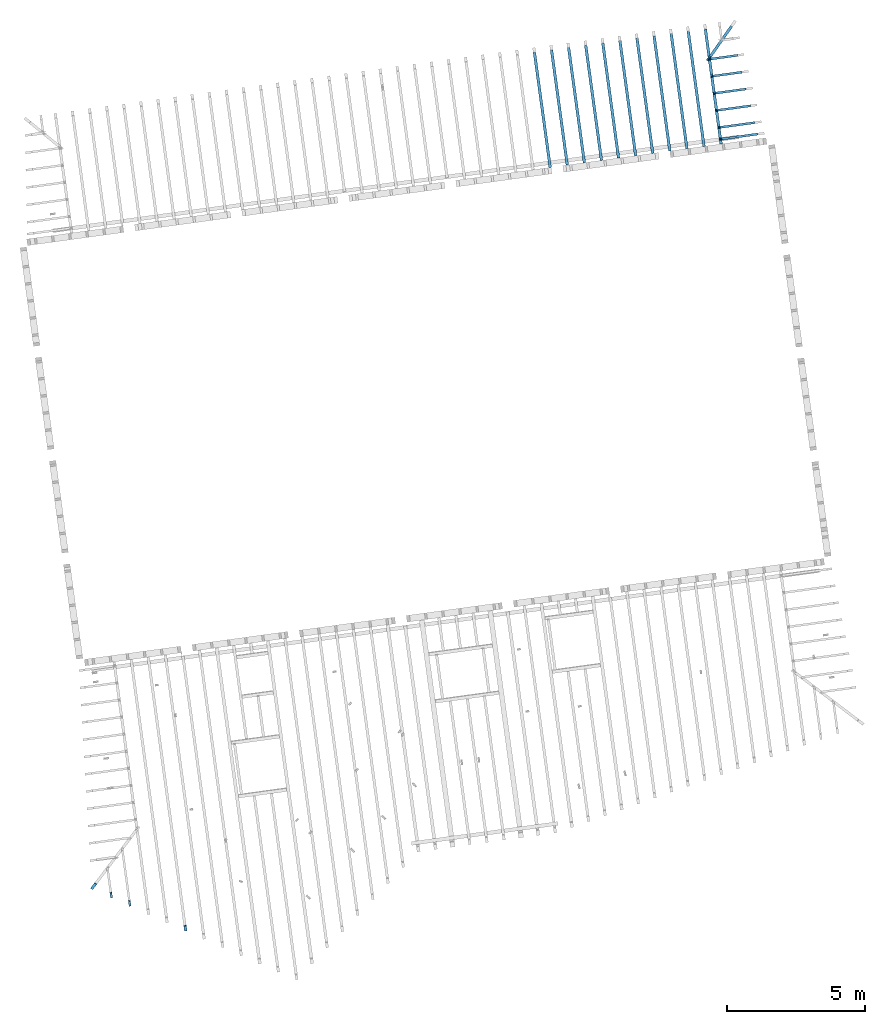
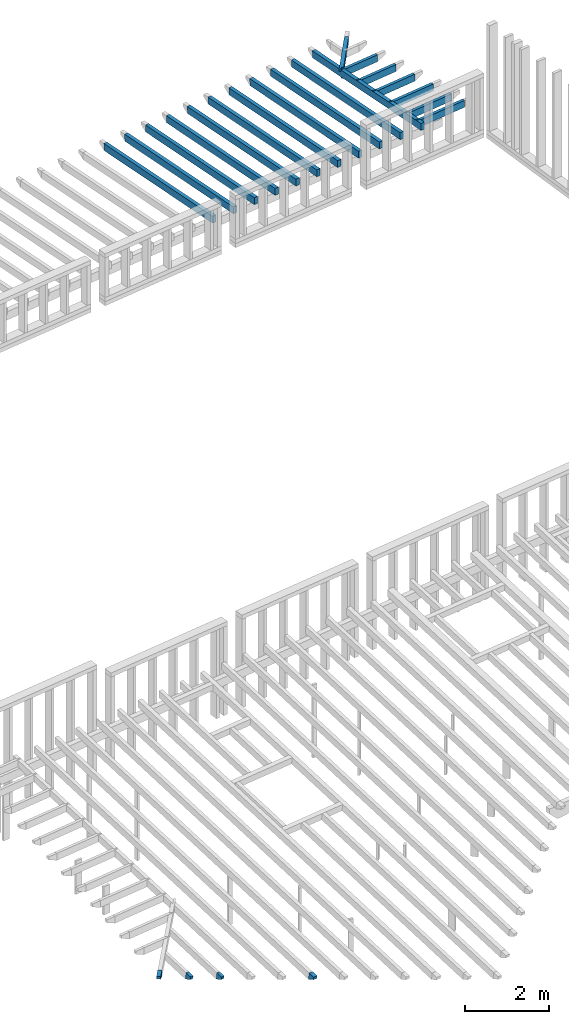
# One storey, part 11 of 16: 22 building element parts, 22 elements without a shape of their own.
"""IFC2X3 building model written with IfcOpenShell, lengths in metres."""

from ifc_helpers import new_model, entity, si_unit, converted_unit, derived_unit, money_unit, direction, frame, origin_with_axes, place, context, subcontext, project, spatial, faceted_brep, material, type_object, element, aggregate, save


model = new_model("IFC2X3")

# Units and contexts
model_context = context("Model", 3, precision=1e-05, world=origin_with_axes(), true_north=direction((0.0, 1.0)))
body_context = subcontext(model_context, "Body", "Model", "MODEL_VIEW")
ifc_project = project(units=[si_unit("LENGTHUNIT", "METRE"), si_unit("AREAUNIT", "SQUARE_METRE"), si_unit("VOLUMEUNIT", "CUBIC_METRE"), converted_unit("PLANEANGLEUNIT", "DEGREE", entity("IfcPlaneAngleMeasure", 0.0174532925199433), si_unit("PLANEANGLEUNIT", "RADIAN"), dimensions=[0, 0, 0, 0, 0, 0, 0]), money_unit("EUR"), converted_unit("TIMEUNIT", "Year", entity("IfcTimeMeasure", 31557600.0), si_unit("TIMEUNIT", "SECOND"), dimensions=[0, 0, 1, 0, 0, 0, 0]), si_unit("MASSUNIT", "GRAM", prefix="KILO"), si_unit("THERMODYNAMICTEMPERATUREUNIT", "DEGREE_CELSIUS"), si_unit("LUMINOUSINTENSITYUNIT", "LUMEN"), si_unit("ENERGYUNIT", "JOULE", prefix="MEGA"), derived_unit("THERMALCONDUCTANCEUNIT", [(si_unit("POWERUNIT", "WATT"), 1), (si_unit("LENGTHUNIT", "METRE"), -1), (si_unit("THERMODYNAMICTEMPERATUREUNIT", "KELVIN"), -1)]), derived_unit("SPECIFICHEATCAPACITYUNIT", [(si_unit("ENERGYUNIT", "JOULE"), 1), (si_unit("MASSUNIT", "GRAM", prefix="KILO"), -1), (si_unit("THERMODYNAMICTEMPERATUREUNIT", "KELVIN"), -1)]), derived_unit("MASSDENSITYUNIT", [(si_unit("MASSUNIT", "GRAM", prefix="KILO"), 1), (si_unit("VOLUMEUNIT", "CUBIC_METRE"), -1)])], contexts=[model_context])

# Site, building, storey
site_placement = place(None, origin_with_axes())
site = spatial("IfcSite", under=ifc_project, at=site_placement, Name="Gelände", CompositionType="ELEMENT")
building_placement = place(site_placement, origin_with_axes())
building = spatial("IfcBuilding", under=site, at=building_placement, Name="Gebäude", CompositionType="ELEMENT")
storey_placement = place(building_placement, frame((0.0, 0.0, 3.0), z_axis=(0.0, 0.0, 1.0), x_axis=(1.0, 0.0, 0.0)))
storey = spatial("IfcBuildingStorey", under=building, at=storey_placement, Name="ZG", CompositionType="ELEMENT", Elevation=3.0)

# Beam, building element part
beam_type_1 = type_object("IfcBeamType", Name="Verschiedene Strukturen - 2 Segmente - 100 x 200 x 4381 (4214+167)", PredefinedType="NOTDEFINED")
beam_1_placement = place(storey_placement, frame((103.6175888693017, -133.0522754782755, 1.028226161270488), z_axis=(0.0, 0.0, 1.0), x_axis=(0.9907484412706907, 0.1357111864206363, 0.0)))
beam_1 = element("IfcBeam", 1, at=beam_1_placement, inside=storey, type_object=beam_type_1, Name="Unterzug-034")
ifc_material = material(Name="Holz, Bauholz-hart")
building_element_part_1_placement = place(beam_1_placement, origin_with_axes())
building_element_part_1 = element("IfcBuildingElementPart", 2, at=building_element_part_1_placement, material=ifc_material, Name="Holz, Bauholz-hart", context=body_context, shape_type="Brep", body=[
    faceted_brep([(-0.04999999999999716, 0.0, -0.2002744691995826), (-0.04999999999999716, 4.197525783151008, -0.4202574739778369), (0.05000000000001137, 4.197525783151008, -0.4202574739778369), (0.05000000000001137, 0.0, -0.2002744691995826), (-0.04999999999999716, 0.0, 0.0), (-0.04999999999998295, 4.207992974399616, -0.2205315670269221), (0.05000000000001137, 4.207992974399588, -0.2205315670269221), (0.05000000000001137, 0.0, 0.0)], [[[0, 1, 2, 3]], [[4, 5, 1, 0]], [[2, 1, 5, 6]], [[3, 2, 6, 7]], [[4, 0, 3, 7]], [[7, 6, 5, 4]]]),
])
aggregate(beam_1, [building_element_part_1])

beam_2_placement = place(storey_placement, frame((104.2368066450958, -132.9674559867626, 1.028226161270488), z_axis=(0.0, 0.0, 1.0), x_axis=(0.9907484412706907, 0.1357111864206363, 0.0)))
beam_2 = element("IfcBeam", 3, at=beam_2_placement, inside=storey, type_object=beam_type_1, Name="Unterzug-034")
building_element_part_2_placement = place(beam_2_placement, origin_with_axes())
building_element_part_2 = element("IfcBuildingElementPart", 4, at=building_element_part_2_placement, material=ifc_material, Name="Holz, Bauholz-hart", context=body_context, shape_type="Brep", body=[
    faceted_brep([(-0.05000000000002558, 0.0, -0.2002744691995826), (-0.05000000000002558, 4.197525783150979, -0.4202574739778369), (0.04999999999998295, 4.197525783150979, -0.4202574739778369), (0.04999999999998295, 0.0, -0.2002744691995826), (-0.05000000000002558, 0.0, 0.0), (-0.05000000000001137, 4.207992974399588, -0.2205315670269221), (0.04999999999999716, 4.207992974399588, -0.2205315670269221), (0.04999999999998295, 0.0, 0.0)], [[[0, 1, 2, 3]], [[4, 5, 1, 0]], [[2, 1, 5, 6]], [[3, 2, 6, 7]], [[4, 0, 3, 7]], [[7, 6, 5, 4]]]),
])
aggregate(beam_2, [building_element_part_2])

beam_3_placement = place(storey_placement, frame((104.85602442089, -132.8826364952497, 1.028226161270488), z_axis=(0.0, 0.0, 1.0), x_axis=(0.9907484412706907, 0.1357111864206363, 0.0)))
beam_3 = element("IfcBeam", 5, at=beam_3_placement, inside=storey, type_object=beam_type_1, Name="Unterzug-034")
building_element_part_3_placement = place(beam_3_placement, origin_with_axes())
building_element_part_3 = element("IfcBuildingElementPart", 6, at=building_element_part_3_placement, material=ifc_material, Name="Holz, Bauholz-hart", context=body_context, shape_type="Brep", body=[
    faceted_brep([(-0.05000000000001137, 0.0, -0.2002744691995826), (-0.04999999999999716, 4.197525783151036, -0.4202574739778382), (0.05000000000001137, 4.197525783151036, -0.4202574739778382), (0.04999999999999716, 0.0, -0.2002744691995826), (-0.05000000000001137, 0.0, 0.0), (-0.04999999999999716, 4.207992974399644, -0.2205315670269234), (0.05000000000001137, 4.207992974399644, -0.2205315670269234), (0.04999999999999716, 0.0, 0.0)], [[[0, 1, 2, 3]], [[4, 5, 1, 0]], [[2, 1, 5, 6]], [[3, 2, 6, 7]], [[4, 0, 3, 7]], [[7, 6, 5, 4]]]),
])
aggregate(beam_3, [building_element_part_3])

beam_4_placement = place(storey_placement, frame((105.4752421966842, -132.7978170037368, 1.028226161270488), z_axis=(0.0, 0.0, 1.0), x_axis=(0.9907484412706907, 0.1357111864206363, 0.0)))
beam_4 = element("IfcBeam", 7, at=beam_4_placement, inside=storey, type_object=beam_type_1, Name="Unterzug-034")
building_element_part_4_placement = place(beam_4_placement, origin_with_axes())
building_element_part_4 = element("IfcBuildingElementPart", 8, at=building_element_part_4_placement, material=ifc_material, Name="Holz, Bauholz-hart", context=body_context, shape_type="Brep", body=[
    faceted_brep([(-0.04999999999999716, 0.0, -0.2002744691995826), (-0.05000000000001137, 4.197525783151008, -0.4202574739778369), (0.05000000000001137, 4.197525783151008, -0.4202574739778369), (0.04999999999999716, 0.0, -0.2002744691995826), (-0.04999999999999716, 0.0, 0.0), (-0.05000000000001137, 4.207992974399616, -0.2205315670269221), (0.05000000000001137, 4.207992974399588, -0.2205315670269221), (0.04999999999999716, 0.0, 0.0)], [[[0, 1, 2, 3]], [[4, 5, 1, 0]], [[2, 1, 5, 6]], [[3, 2, 6, 7]], [[4, 0, 3, 7]], [[7, 6, 5, 4]]]),
])
aggregate(beam_4, [building_element_part_4])

beam_5_placement = place(storey_placement, frame((106.0944599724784, -132.7129975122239, 1.028226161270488), z_axis=(0.0, 0.0, 1.0), x_axis=(0.9907484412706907, 0.1357111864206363, 0.0)))
beam_5 = element("IfcBeam", 9, at=beam_5_placement, inside=storey, type_object=beam_type_1, Name="Unterzug-034")
building_element_part_5_placement = place(beam_5_placement, origin_with_axes())
building_element_part_5 = element("IfcBuildingElementPart", 10, at=building_element_part_5_placement, material=ifc_material, Name="Holz, Bauholz-hart", context=body_context, shape_type="Brep", body=[
    faceted_brep([(-0.04999999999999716, 0.0, -0.2002744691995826), (-0.05000000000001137, 4.197525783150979, -0.4202574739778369), (0.04999999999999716, 4.197525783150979, -0.4202574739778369), (0.04999999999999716, 0.0, -0.2002744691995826), (-0.04999999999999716, 0.0, 0.0), (-0.04999999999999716, 4.207992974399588, -0.2205315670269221), (0.05000000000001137, 4.207992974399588, -0.2205315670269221), (0.04999999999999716, 0.0, 0.0)], [[[0, 1, 2, 3]], [[4, 5, 1, 0]], [[2, 1, 5, 6]], [[3, 2, 6, 7]], [[4, 0, 3, 7]], [[7, 6, 5, 4]]]),
])
aggregate(beam_5, [building_element_part_5])

beam_6_placement = place(storey_placement, frame((106.7136777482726, -132.628178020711, 1.028226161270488), z_axis=(0.0, 0.0, 1.0), x_axis=(0.9907484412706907, 0.1357111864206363, 0.0)))
beam_6 = element("IfcBeam", 11, at=beam_6_placement, inside=storey, type_object=beam_type_1, Name="Unterzug-034")
building_element_part_6_placement = place(beam_6_placement, origin_with_axes())
building_element_part_6 = element("IfcBuildingElementPart", 12, at=building_element_part_6_placement, material=ifc_material, Name="Holz, Bauholz-hart", context=body_context, shape_type="Brep", body=[
    faceted_brep([(-0.04999999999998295, 0.0, -0.2002744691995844), (-0.04999999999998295, 4.197525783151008, -0.4202574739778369), (0.05000000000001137, 4.197525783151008, -0.4202574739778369), (0.05000000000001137, 0.0, -0.2002744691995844), (-0.04999999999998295, 0.0, 0.0), (-0.04999999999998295, 4.207992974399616, -0.2205315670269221), (0.05000000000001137, 4.207992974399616, -0.2205315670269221), (0.05000000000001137, 0.0, 0.0)], [[[0, 1, 2, 3]], [[4, 5, 1, 0]], [[2, 1, 5, 6]], [[3, 2, 6, 7]], [[4, 0, 3, 7]], [[7, 6, 5, 4]]]),
])
aggregate(beam_6, [building_element_part_6])

beam_7_placement = place(storey_placement, frame((107.3328955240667, -132.5433585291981, 1.028226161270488), z_axis=(0.0, 0.0, 1.0), x_axis=(0.9907484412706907, 0.1357111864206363, 0.0)))
beam_7 = element("IfcBeam", 13, at=beam_7_placement, inside=storey, type_object=beam_type_1, Name="Unterzug-034")
building_element_part_7_placement = place(beam_7_placement, origin_with_axes())
building_element_part_7 = element("IfcBuildingElementPart", 14, at=building_element_part_7_placement, material=ifc_material, Name="Holz, Bauholz-hart", context=body_context, shape_type="Brep", body=[
    faceted_brep([(-0.04999999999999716, 0.0, -0.2002744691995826), (-0.04999999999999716, 4.197525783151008, -0.4202574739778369), (0.05000000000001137, 4.197525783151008, -0.4202574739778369), (0.05000000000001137, 0.0, -0.2002744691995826), (-0.04999999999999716, 0.0, 0.0), (-0.04999999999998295, 4.207992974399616, -0.2205315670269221), (0.05000000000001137, 4.207992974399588, -0.2205315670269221), (0.05000000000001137, 0.0, 0.0)], [[[0, 1, 2, 3]], [[4, 5, 1, 0]], [[2, 1, 5, 6]], [[3, 2, 6, 7]], [[4, 0, 3, 7]], [[7, 6, 5, 4]]]),
])
aggregate(beam_7, [building_element_part_7])

beam_8_placement = place(storey_placement, frame((107.9521132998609, -132.4585390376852, 1.028226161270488), z_axis=(0.0, 0.0, 1.0), x_axis=(0.9907484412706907, 0.1357111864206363, 0.0)))
beam_8 = element("IfcBeam", 15, at=beam_8_placement, inside=storey, type_object=beam_type_1, Name="Unterzug-034")
building_element_part_8_placement = place(beam_8_placement, origin_with_axes())
building_element_part_8 = element("IfcBuildingElementPart", 16, at=building_element_part_8_placement, material=ifc_material, Name="Holz, Bauholz-hart", context=body_context, shape_type="Brep", body=[
    faceted_brep([(-0.04999999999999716, 0.0, -0.2002744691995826), (-0.04999999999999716, 4.197525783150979, -0.4202574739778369), (0.05000000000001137, 4.197525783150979, -0.4202574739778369), (0.05000000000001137, 0.0, -0.2002744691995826), (-0.04999999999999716, 0.0, 0.0), (-0.04999999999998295, 4.207992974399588, -0.2205315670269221), (0.05000000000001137, 4.207992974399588, -0.2205315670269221), (0.05000000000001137, 0.0, 0.0)], [[[0, 1, 2, 3]], [[4, 5, 1, 0]], [[2, 1, 5, 6]], [[3, 2, 6, 7]], [[4, 0, 3, 7]], [[7, 6, 5, 4]]]),
])
aggregate(beam_8, [building_element_part_8])

beam_9_placement = place(storey_placement, frame((108.5713310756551, -132.3737195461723, 1.028226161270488), z_axis=(0.0, 0.0, 1.0), x_axis=(0.9907484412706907, 0.1357111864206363, 0.0)))
beam_9 = element("IfcBeam", 17, at=beam_9_placement, inside=storey, type_object=beam_type_1, Name="Unterzug-034")
building_element_part_9_placement = place(beam_9_placement, origin_with_axes())
building_element_part_9 = element("IfcBuildingElementPart", 18, at=building_element_part_9_placement, material=ifc_material, Name="Holz, Bauholz-hart", context=body_context, shape_type="Brep", body=[
    faceted_brep([(-0.05000000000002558, 0.0, -0.2002744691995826), (-0.05000000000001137, 4.197525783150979, -0.4202574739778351), (0.04999999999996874, 4.197525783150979, -0.4202574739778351), (0.04999999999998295, 0.0, -0.2002744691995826), (-0.05000000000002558, 0.0, 0.0), (-0.05000000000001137, 4.207992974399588, -0.2205315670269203), (0.04999999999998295, 4.207992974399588, -0.2205315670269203), (0.04999999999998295, 0.0, 0.0)], [[[0, 1, 2, 3]], [[4, 5, 1, 0]], [[2, 1, 5, 6]], [[3, 2, 6, 7]], [[4, 0, 3, 7]], [[7, 6, 5, 4]]]),
])
aggregate(beam_9, [building_element_part_9])

beam_10_placement = place(storey_placement, frame((109.1905488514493, -132.2889000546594, 1.028226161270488), z_axis=(0.0, 0.0, 1.0), x_axis=(0.9907484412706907, 0.1357111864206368, 0.0)))
beam_10 = element("IfcBeam", 19, at=beam_10_placement, inside=storey, type_object=beam_type_1, Name="Unterzug-034")
building_element_part_10_placement = place(beam_10_placement, origin_with_axes())
building_element_part_10 = element("IfcBuildingElementPart", 20, at=building_element_part_10_placement, material=ifc_material, Name="Holz, Bauholz-hart", context=body_context, shape_type="Brep", body=[
    faceted_brep([(-0.05000000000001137, 0.0, -0.2002744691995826), (-0.05000000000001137, 4.197525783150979, -0.4202574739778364), (0.04999999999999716, 4.197525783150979, -0.4202574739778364), (0.04999999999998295, 0.0, -0.2002744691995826), (-0.05000000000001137, 0.0, 0.0), (-0.05000000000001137, 4.207992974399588, -0.2205315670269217), (0.04999999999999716, 4.207992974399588, -0.2205315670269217), (0.04999999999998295, 0.0, 0.0)], [[[0, 1, 2, 3]], [[4, 5, 1, 0]], [[2, 1, 5, 6]], [[3, 2, 6, 7]], [[4, 0, 3, 7]], [[7, 6, 5, 4]]]),
])
aggregate(beam_10, [building_element_part_10])

beam_type_2 = type_object("IfcBeamType", Name="Verschiedene Strukturen - 2 Segmente - 100 x 200 x 10107 (183+9924)", PredefinedType="NOTDEFINED")
beam_11_placement = place(storey_placement, frame((90.41320547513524, -160.7165916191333, 0.4186167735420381), z_axis=(0.0, 0.0, 1.0), x_axis=(0.9907484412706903, 0.1357111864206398, 0.0)))
beam_11 = element("IfcBeam", 21, at=beam_11_placement, inside=storey, type_object=beam_type_2, Name="Unterzug-034")
building_element_part_11_placement = place(beam_11_placement, origin_with_axes())
building_element_part_11 = element("IfcBuildingElementPart", 22, at=building_element_part_11_placement, material=ifc_material, Name="Holz, Bauholz-hart", context=body_context, shape_type="Brep", body=[
    faceted_brep([(0.04999999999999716, 0.208561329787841, -0.1726541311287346), (0.04999999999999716, 0.01113384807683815, -0.07922144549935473), (-0.05000000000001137, 0.01113384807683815, -0.07922144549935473), (-0.05000000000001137, 0.2085613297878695, -0.1726541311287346), (0.04999999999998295, 0.1807267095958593, 0.02539948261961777), (0.04999999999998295, 0.0, 0.0), (-0.05000000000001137, 0.0, 0.0), (-0.04999999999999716, 0.1807267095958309, 0.02539948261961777)], [[[0, 1, 2, 3]], [[4, 5, 1, 0]], [[5, 6, 2, 1]], [[3, 2, 6, 7]], [[4, 0, 3, 7]], [[7, 6, 5, 4]]]),
])
aggregate(beam_11, [building_element_part_11])

beam_type_3 = type_object("IfcBeamType", Name="Verschiedene Strukturen - 2 Segmente - 80 x 200 x 1131 (183+949)", PredefinedType="NOTDEFINED")
beam_12_placement = place(storey_placement, frame((87.72628365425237, -159.5224042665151, 0.6361437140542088), z_axis=(0.0, 0.0, 1.0), x_axis=(0.990748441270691, 0.1357111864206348, 0.0)))
beam_12 = element("IfcBeam", 23, at=beam_12_placement, inside=storey, type_object=beam_type_3, Name="Unterzug-034")
building_element_part_12_placement = place(beam_12_placement, origin_with_axes())
building_element_part_12 = element("IfcBuildingElementPart", 24, at=building_element_part_12_placement, material=ifc_material, Name="Holz, Bauholz-hart", context=body_context, shape_type="Brep", body=[
    faceted_brep([(0.03999999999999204, 0.2085613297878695, -0.1726541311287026), (0.04000000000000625, 0.01113384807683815, -0.07922144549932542), (-0.03999999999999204, 0.01113384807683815, -0.07922144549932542), (-0.04000000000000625, 0.2085613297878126, -0.1726541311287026), (0.04000000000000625, 0.1807267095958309, 0.02539948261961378), (0.04000000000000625, 0.0, 0.0), (-0.03999999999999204, 0.0, 0.0), (-0.03999999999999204, 0.1807267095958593, 0.02539948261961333)], [[[0, 1, 2, 3]], [[4, 5, 1, 0]], [[5, 6, 2, 1]], [[3, 2, 6, 7]], [[4, 0, 3, 7]], [[7, 6, 5, 4]]]),
])
aggregate(beam_12, [building_element_part_12])

beam_type_4 = type_object("IfcBeamType", Name="Verschiedene Strukturen - 2 Segmente - 100 x 200 x 2865 (248+2617)", PredefinedType="NOTDEFINED")
beam_13_placement = place(storey_placement, frame((87.00040731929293, -159.1989129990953, 0.6950314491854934), z_axis=(0.0, 0.0, 1.0), x_axis=(0.796527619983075, -0.6046021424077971, 0.0)))
beam_13 = element("IfcBeam", 25, at=beam_13_placement, inside=storey, type_object=beam_type_4, Name="Unterzug-034")
building_element_part_13_placement = place(beam_13_placement, origin_with_axes())
building_element_part_13 = element("IfcBuildingElementPart", 26, at=building_element_part_13_placement, material=ifc_material, Name="Holz, Bauholz-hart", context=body_context, shape_type="Brep", body=[
    faceted_brep([(0.04999999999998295, 0.2586016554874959, -0.1752860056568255), (0.04999999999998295, 0.0, -0.07658848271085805), (-0.04999999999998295, 0.0, -0.07658848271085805), (-0.04999999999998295, 0.2586016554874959, -0.1752860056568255), (0.05000000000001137, 0.23882360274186, 0.02373366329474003), (0.04999999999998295, 0.0, 0.0), (-0.04999999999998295, 0.0, 0.0), (-0.04999999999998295, 0.2388236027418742, 0.02373366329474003)], [[[0, 1, 2, 3]], [[4, 5, 1, 0]], [[5, 6, 2, 1]], [[3, 2, 6, 7]], [[4, 0, 3, 7]], [[7, 6, 5, 4]]]),
])
aggregate(beam_13, [building_element_part_13])

beam_type_5 = type_object("IfcBeamType", Name="Verschiedene Strukturen - 2 Segmente - 80 x 200 x 2153 (183+1971)", PredefinedType="NOTDEFINED")
beam_14_placement = place(storey_placement, frame((88.39801465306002, -159.8209513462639, 0.5817619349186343), z_axis=(0.0, 0.0, 1.0), x_axis=(0.9907484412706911, 0.1357111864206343, 0.0)))
beam_14 = element("IfcBeam", 27, at=beam_14_placement, inside=storey, type_object=beam_type_5, Name="Unterzug-034")
building_element_part_14_placement = place(beam_14_placement, origin_with_axes())
building_element_part_14 = element("IfcBuildingElementPart", 28, at=building_element_part_14_placement, material=ifc_material, Name="Holz, Bauholz-hart", context=body_context, shape_type="Brep", body=[
    faceted_brep([(0.03999999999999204, 0.208561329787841, -0.1726541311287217), (0.03999999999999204, 0.01113384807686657, -0.07922144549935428), (-0.03999999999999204, 0.01113384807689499, -0.07922144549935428), (-0.04000000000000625, 0.208561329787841, -0.1726541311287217), (0.03999999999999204, 0.1807267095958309, 0.02539948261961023), (0.03999999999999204, 0.0, 0.0), (-0.04000000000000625, 0.0, 0.0), (-0.04000000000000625, 0.1807267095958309, 0.02539948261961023)], [[[0, 1, 2, 3]], [[4, 5, 1, 0]], [[5, 6, 2, 1]], [[3, 2, 6, 7]], [[4, 0, 3, 7]], [[7, 6, 5, 4]]]),
])
aggregate(beam_14, [building_element_part_14])

beam_type_6 = type_object("IfcBeamType", Name="Verschiedene Strukturen - 2 Segmente - 80 x 200 x 1530 (1290+240)", PredefinedType="NOTDEFINED")
beam_15_placement = place(storey_placement, frame((109.6434425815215, -130.9898454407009, 0.963996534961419), z_axis=(0.0, 0.0, 1.0), x_axis=(0.1357111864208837, -0.9907484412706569, 0.0)))
beam_15 = element("IfcBeam", 29, at=beam_15_placement, inside=storey, type_object=beam_type_6, Name="Unterzug-034")
building_element_part_15_placement = place(beam_15_placement, origin_with_axes())
building_element_part_15 = element("IfcBuildingElementPart", 30, at=building_element_part_15_placement, material=ifc_material, Name="Holz, Bauholz-hart", context=body_context, shape_type="Brep", body=[
    faceted_brep([(-0.04000000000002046, -0.05000000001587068, 0.0), (-6.905306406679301e-07, -0.05000000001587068, 0.0), (-6.905307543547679e-07, 0.04999999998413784, 0.0), (0.03999999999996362, 0.04999999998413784, 0.0), (0.03999999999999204, 1.24027454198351, 0.0), (-0.03999999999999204, 1.240274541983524, 0.0), (-0.04000000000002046, -0.05000000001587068, -0.002096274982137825), (-0.04000000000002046, 0.04999999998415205, -0.002096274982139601), (0.005236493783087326, 0.04999999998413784, -0.2000000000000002), (0.03999999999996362, 0.04999999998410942, -0.1981781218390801), (-0.04000000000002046, 0.04999999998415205, -0.2000000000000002), (0.03999999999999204, -0.05000000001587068, -0.1981781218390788), (0.03999999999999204, -0.05000000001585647, -0.2000000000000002), (0.03999999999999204, 1.24027454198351, -0.2000000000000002), (-0.03999999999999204, 1.240274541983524, -0.2000000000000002), (0.005236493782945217, -0.05000000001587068, -0.2000000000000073)], [[[0, 1, 2, 3, 4, 5]], [[0, 6, 1]], [[7, 2, 1, 6]], [[8, 9, 3, 2, 7, 10]], [[3, 9, 11, 12, 13, 4]], [[13, 14, 5, 4]], [[10, 7, 6, 0, 5, 14]], [[15, 11, 9, 8]], [[15, 8, 10, 14, 13, 12]], [[12, 11, 15]]]),
])
aggregate(beam_15, [building_element_part_15])

beam_type_7 = type_object("IfcBeamType", Name="Verschiedene Strukturen - 2 Segmente - 80 x 200 x 1458 (1218+240)", PredefinedType="NOTDEFINED")
beam_16_placement = place(storey_placement, frame((109.5586230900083, -130.3706276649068, 0.9312416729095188), z_axis=(0.0, 0.0, 1.0), x_axis=(0.1357111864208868, -0.9907484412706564, 0.0)))
beam_16 = element("IfcBeam", 31, at=beam_16_placement, inside=storey, type_object=beam_type_7, Name="Unterzug-034")
building_element_part_16_placement = place(beam_16_placement, origin_with_axes())
building_element_part_16 = element("IfcBuildingElementPart", 32, at=building_element_part_16_placement, material=ifc_material, Name="Holz, Bauholz-hart", context=body_context, shape_type="Brep", body=[
    faceted_brep([(-0.04000000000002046, -0.05000000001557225, 0.0), (-6.905306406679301e-07, -0.05000000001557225, 0.0), (-6.905307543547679e-07, 0.04999999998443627, 0.0), (0.03999999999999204, 0.04999999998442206, 0.0), (0.04000000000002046, 1.167600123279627, 0.0), (-0.04000000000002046, 1.167600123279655, 0.0), (-0.04000000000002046, -0.05000000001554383, -0.002096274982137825), (-0.04000000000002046, 0.04999999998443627, -0.002096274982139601), (0.005236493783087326, 0.04999999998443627, -0.2000000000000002), (0.03999999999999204, 0.04999999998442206, -0.1981781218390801), (-0.04000000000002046, 0.04999999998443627, -0.2000000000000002), (0.04000000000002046, -0.05000000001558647, -0.1981781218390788), (0.04000000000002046, -0.05000000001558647, -0.2000000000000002), (0.04000000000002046, 1.167600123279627, -0.2000000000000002), (-0.04000000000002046, 1.167600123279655, -0.2000000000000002), (0.005236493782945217, -0.05000000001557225, -0.2000000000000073)], [[[0, 1, 2, 3, 4, 5]], [[0, 6, 1]], [[7, 2, 1, 6]], [[8, 9, 3, 2, 7, 10]], [[3, 9, 11, 12, 13, 4]], [[13, 14, 5, 4]], [[10, 7, 6, 0, 5, 14]], [[15, 11, 9, 8]], [[15, 8, 10, 14, 13, 12]], [[12, 11, 15]]]),
])
aggregate(beam_16, [building_element_part_16])

beam_type_8 = type_object("IfcBeamType", Name="Verschiedene Strukturen - 2 Segmente - 80 x 200 x 1385 (1145+240)", PredefinedType="NOTDEFINED")
beam_17_placement = place(storey_placement, frame((109.4738035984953, -129.7514098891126, 0.8984868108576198), z_axis=(0.0, 0.0, 1.0), x_axis=(0.1357111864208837, -0.990748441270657, 0.0)))
beam_17 = element("IfcBeam", 33, at=beam_17_placement, inside=storey, type_object=beam_type_8, Name="Unterzug-034")
building_element_part_17_placement = place(beam_17_placement, origin_with_axes())
building_element_part_17 = element("IfcBuildingElementPart", 34, at=building_element_part_17_placement, material=ifc_material, Name="Holz, Bauholz-hart", context=body_context, shape_type="Brep", body=[
    faceted_brep([(-0.04000000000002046, -0.05000000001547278, 0.0), (-6.905305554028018e-07, -0.05000000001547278, 0.0), (-6.905307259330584e-07, 0.04999999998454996, 0.0), (0.03999999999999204, 0.04999999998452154, 0.0), (0.03999999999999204, 1.094925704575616, 0.0), (-0.03999999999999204, 1.094925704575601, 0.0), (-0.04000000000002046, -0.05000000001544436, -0.002096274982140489), (-0.03999999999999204, 0.04999999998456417, -0.002096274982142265), (0.005236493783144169, 0.04999999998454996, -0.2000000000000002), (0.03999999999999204, 0.04999999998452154, -0.1981781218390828), (-0.03999999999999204, 0.04999999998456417, -0.2000000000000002), (0.03999999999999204, -0.05000000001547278, -0.1981781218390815), (0.03999999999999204, -0.05000000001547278, -0.2000000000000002), (0.03999999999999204, 1.094925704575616, -0.2000000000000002), (-0.03999999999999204, 1.094925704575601, -0.2000000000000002), (0.005236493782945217, -0.05000000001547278, -0.2000000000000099)], [[[0, 1, 2, 3, 4, 5]], [[0, 6, 1]], [[7, 2, 1, 6]], [[8, 9, 3, 2, 7, 10]], [[3, 9, 11, 12, 13, 4]], [[13, 14, 5, 4]], [[10, 7, 6, 0, 5, 14]], [[15, 11, 9, 8]], [[15, 8, 10, 14, 13, 12]], [[12, 11, 15]]]),
])
aggregate(beam_17, [building_element_part_17])

beam_type_9 = type_object("IfcBeamType", Name="Verschiedene Strukturen - 2 Segmente - 80 x 200 x 1312 (1072+240)", PredefinedType="NOTDEFINED")
beam_18_placement = place(storey_placement, frame((109.3889841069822, -129.1321921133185, 0.865731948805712), z_axis=(0.0, 0.0, 1.0), x_axis=(0.1357111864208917, -0.9907484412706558, 0.0)))
beam_18 = element("IfcBeam", 35, at=beam_18_placement, inside=storey, type_object=beam_type_9, Name="Unterzug-034")
building_element_part_18_placement = place(beam_18_placement, origin_with_axes())
building_element_part_18 = element("IfcBuildingElementPart", 36, at=building_element_part_18_placement, material=ifc_material, Name="Holz, Bauholz-hart", context=body_context, shape_type="Brep", body=[
    faceted_brep([(-0.04000000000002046, -0.05000000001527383, 0.0), (-6.905307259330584e-07, -0.0500000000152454, 0.0), (-6.905308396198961e-07, 0.04999999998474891, 0.0), (0.03999999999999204, 0.0499999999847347, 0.0), (0.03999999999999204, 1.022251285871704, 0.0), (-0.04000000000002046, 1.022251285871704, 0.0), (-0.04000000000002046, -0.05000000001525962, -0.00209627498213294), (-0.04000000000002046, 0.04999999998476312, -0.002096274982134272), (0.005236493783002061, 0.04999999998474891, -0.2000000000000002), (0.03999999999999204, 0.0499999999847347, -0.1981781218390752), (-0.04000000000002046, 0.04999999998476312, -0.2000000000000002), (0.03999999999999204, -0.05000000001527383, -0.1981781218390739), (0.03999999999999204, -0.05000000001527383, -0.2000000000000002), (0.03999999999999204, 1.022251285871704, -0.2000000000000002), (-0.04000000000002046, 1.022251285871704, -0.2000000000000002), (0.005236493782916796, -0.05000000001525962, -0.2000000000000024)], [[[0, 1, 2, 3, 4, 5]], [[0, 6, 1]], [[7, 2, 1, 6]], [[8, 9, 3, 2, 7, 10]], [[3, 9, 11, 12, 13, 4]], [[13, 14, 5, 4]], [[10, 7, 6, 0, 5, 14]], [[15, 11, 9, 8]], [[15, 8, 10, 14, 13, 12]], [[12, 11, 15]]]),
])
aggregate(beam_18, [building_element_part_18])

beam_type_10 = type_object("IfcBeamType", Name="Verschiedene Strukturen - 2 Segmente - 100 x 200 x 1775 (1532+243)", PredefinedType="NOTDEFINED")
beam_19_placement = place(storey_placement, frame((109.3828589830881, -129.087476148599, 0.8633666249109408), z_axis=(0.0, 0.0, 1.0), x_axis=(0.818915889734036, -0.5739135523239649, 0.0)))
beam_19 = element("IfcBeam", 37, at=beam_19_placement, inside=storey, type_object=beam_type_10, Name="Unterzug-034")
building_element_part_19_placement = place(beam_19_placement, origin_with_axes())
building_element_part_19 = element("IfcBuildingElementPart", 38, at=building_element_part_19_placement, material=ifc_material, Name="Holz, Bauholz-hart", context=body_context, shape_type="Brep", body=[
    faceted_brep([(-3.826552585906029e-07, 0.0735579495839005, -0.002827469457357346), (0.04016211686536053, 0.03022180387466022, -0.001161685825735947), (0.05000000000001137, 0.03933922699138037, -0.001512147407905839), (0.05000000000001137, 1.403264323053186, -0.05393960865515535), (-0.04999999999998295, 1.403264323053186, -0.05393960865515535), (-0.04999999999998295, -0.1275085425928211, 0.00490125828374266), (-3.202648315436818e-07, -0.1275085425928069, 0.00490125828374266), (-3.202647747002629e-07, -0.07355719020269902, 0.002827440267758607), (-3.253633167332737e-07, -0.06153501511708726, 0.002365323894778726), (-0.01114207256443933, -0.06153501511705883, 0.002365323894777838), (-0.03318319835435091, -0.03775219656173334, 0.001451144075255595), (-3.484914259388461e-07, -0.006999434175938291, 0.0002690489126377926), (0.05000000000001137, 0.01960652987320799, -0.197634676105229), (0.04016211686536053, 0.03022180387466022, -0.197634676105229), (-0.04999999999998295, 0.1275085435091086, -0.00668242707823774), (-0.04999999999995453, 0.1275085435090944, -0.2050489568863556), (0.003558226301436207, 0.06971813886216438, -0.2028275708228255), (0.05000000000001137, 0.01960652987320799, -0.199246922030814), (0.05000000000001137, 0.03933922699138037, -0.197634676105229), (0.05000000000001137, -0.02233682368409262, -0.1976346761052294), (0.05000000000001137, -0.06537746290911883, -0.197634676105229), (0.05000000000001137, 1.395582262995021, -0.2537920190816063), (-0.04999999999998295, 1.395582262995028, -0.2537920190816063), (-0.04999999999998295, -0.01960652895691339, -0.001027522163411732), (-0.04999999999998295, -0.1275085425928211, 0.003120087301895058), (-0.03318319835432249, -0.03775219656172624, 0.0002690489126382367), (-0.005994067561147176, -0.06708981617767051, 0.00236532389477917), (0.003558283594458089, -0.06537746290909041, -0.1976346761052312)], [[[0, 1, 2, 3, 4, 5, 6, 7, 8, 9, 10, 11]], [[12, 13, 1, 0, 14, 15, 16, 17]], [[13, 18, 2, 1]], [[2, 18, 12, 17, 19, 20, 21, 3]], [[3, 21, 22, 4]], [[22, 15, 14, 23, 24, 5, 4]], [[24, 6, 5]], [[23, 25, 26, 7, 6, 24]], [[7, 26, 8]], [[26, 9, 8]], [[9, 26, 25, 10]], [[10, 25, 11]], [[0, 11, 25, 23, 14]], [[13, 12, 18]], [[21, 20, 27, 16, 15, 22]], [[16, 27, 19, 17]], [[27, 20, 19]]]),
    faceted_brep([(0.05000000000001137, -0.1275085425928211, -0.1952464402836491), (0.05000000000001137, -0.0697338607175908, -0.1974672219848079), (0.05000000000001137, -0.06973386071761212, -0.1958127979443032), (0.04999999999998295, -0.1275085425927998, -0.1935920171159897), (0.003558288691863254, -0.07739700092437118, -0.1971726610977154), (0.021196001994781, -0.09642844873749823, -0.1964411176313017), (0.003558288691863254, -0.1275085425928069, -0.1952464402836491), (0.021196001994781, -0.09642844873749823, -0.1958127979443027)], [[[0, 1, 2, 3]], [[4, 5, 1, 0, 6]], [[5, 7, 2, 1]], [[3, 2, 7]], [[3, 6, 0]], [[5, 4, 7]], [[3, 7, 4, 6]]]),
])
aggregate(beam_19, [building_element_part_19])

beam_20_placement = place(storey_placement, frame((109.8097666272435, -132.2040805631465, 1.028226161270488), z_axis=(0.0, 0.0, 1.0), x_axis=(0.9907484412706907, 0.1357111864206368, 0.0)))
beam_20 = element("IfcBeam", 39, at=beam_20_placement, inside=storey, type_object=beam_type_1, Name="Unterzug-034")
building_element_part_20_placement = place(beam_20_placement, origin_with_axes())
building_element_part_20 = element("IfcBuildingElementPart", 40, at=building_element_part_20_placement, material=ifc_material, Name="Holz, Bauholz-hart", context=body_context, shape_type="Brep", body=[
    faceted_brep([(-0.04999999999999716, 0.0, -0.2002744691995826), (-0.04999999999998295, 4.197525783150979, -0.4202574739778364), (0.05000000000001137, 4.197525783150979, -0.4202574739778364), (0.04999999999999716, 0.0, -0.2002744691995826), (-0.04999999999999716, 0.0, 0.0), (-0.04999999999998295, 4.207992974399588, -0.2205315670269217), (0.05000000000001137, 4.207992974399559, -0.2205315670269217), (0.04999999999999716, 0.0, 0.0)], [[[0, 1, 2, 3]], [[4, 5, 1, 0]], [[2, 1, 5, 6]], [[3, 2, 6, 7]], [[4, 0, 3, 7]], [[7, 6, 5, 4]]]),
])
aggregate(beam_20, [building_element_part_20])

beam_type_11 = type_object("IfcBeamType", Name="Verschiedene Strukturen - 2 Segmente - 80 x 200 x 1652 (1412+240)", PredefinedType="NOTDEFINED")
beam_21_placement = place(storey_placement, frame((109.7859393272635, -132.0301313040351, 1.019024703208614), z_axis=(0.0, 0.0, 1.0), x_axis=(0.135711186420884, -0.9907484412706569, 0.0)))
beam_21 = element("IfcBeam", 41, at=beam_21_placement, inside=storey, type_object=beam_type_11, Name="Unterzug-034")
building_element_part_21_placement = place(beam_21_placement, origin_with_axes())
building_element_part_21 = element("IfcBuildingElementPart", 42, at=building_element_part_21_placement, material=ifc_material, Name="Holz, Bauholz-hart", context=body_context, shape_type="Brep", body=[
    faceted_brep([(-0.03999999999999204, -0.05000000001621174, 0.0), (-6.905307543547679e-07, -0.05000000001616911, 0.0), (-6.905307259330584e-07, 0.04999999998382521, 0.0), (0.04000000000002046, 0.04999999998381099, 0.0), (0.03999999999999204, 1.362367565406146, 0.0), (-0.03999999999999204, 1.362367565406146, 0.0), (-0.03999999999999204, -0.05000000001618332, -0.002096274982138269), (-0.04000000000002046, 0.04999999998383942, -0.002096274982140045), (0.005236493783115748, 0.04999999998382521, -0.2000000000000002), (0.04000000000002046, 0.04999999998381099, -0.198178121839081), (-0.04000000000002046, 0.04999999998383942, -0.2000000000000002), (0.03999999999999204, -0.05000000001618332, -0.1981781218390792), (0.03999999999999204, -0.05000000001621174, -0.2000000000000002), (0.03999999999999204, 1.362367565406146, -0.2000000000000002), (-0.03999999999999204, 1.362367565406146, -0.2000000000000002), (0.005236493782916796, -0.05000000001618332, -0.2000000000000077)], [[[0, 1, 2, 3, 4, 5]], [[0, 6, 1]], [[7, 2, 1, 6]], [[8, 9, 3, 2, 7, 10]], [[3, 9, 11, 12, 13, 4]], [[13, 14, 5, 4]], [[10, 7, 6, 0, 5, 14]], [[15, 11, 9, 8]], [[15, 8, 10, 14, 13, 12]], [[12, 11, 15]]]),
])
aggregate(beam_21, [building_element_part_21])

beam_type_12 = type_object("IfcBeamType", Name="Verschiedene Strukturen - 2 Segmente - 80 x 200 x 1603 (1363+240)", PredefinedType="NOTDEFINED")
beam_22_placement = place(storey_placement, frame((109.7282620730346, -131.609063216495, 0.9967513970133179), z_axis=(0.0, 0.0, 1.0), x_axis=(0.1357111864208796, -0.9907484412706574, 0.0)))
beam_22 = element("IfcBeam", 43, at=beam_22_placement, inside=storey, type_object=beam_type_12, Name="Unterzug-034")
building_element_part_22_placement = place(beam_22_placement, origin_with_axes())
building_element_part_22 = element("IfcBuildingElementPart", 44, at=building_element_part_22_placement, material=ifc_material, Name="Holz, Bauholz-hart", context=body_context, shape_type="Brep", body=[
    faceted_brep([(-0.04000000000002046, -0.05000000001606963, 0.0), (-6.905307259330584e-07, -0.05000000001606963, 0.0), (-6.905307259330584e-07, 0.04999999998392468, 0.0), (0.03999999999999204, 0.04999999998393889, 0.0), (0.04000000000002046, 1.312948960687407, 0.0), (-0.03999999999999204, 1.312948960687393, 0.0), (-0.04000000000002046, -0.05000000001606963, -0.002096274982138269), (-0.03999999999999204, 0.04999999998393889, -0.002096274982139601), (0.005236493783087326, 0.04999999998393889, -0.2000000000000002), (0.03999999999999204, 0.04999999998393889, -0.1981781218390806), (-0.03999999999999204, 0.04999999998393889, -0.2000000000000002), (0.03999999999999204, -0.05000000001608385, -0.1981781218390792), (0.03999999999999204, -0.05000000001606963, -0.2000000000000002), (0.04000000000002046, 1.312948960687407, -0.2000000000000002), (-0.03999999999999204, 1.312948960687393, -0.2000000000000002), (0.005236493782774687, -0.05000000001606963, -0.2000000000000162)], [[[0, 1, 2, 3, 4, 5]], [[0, 6, 1]], [[7, 2, 1, 6]], [[8, 9, 3, 2, 7, 10]], [[3, 9, 11, 12, 13, 4]], [[13, 14, 5, 4]], [[10, 7, 6, 0, 5, 14]], [[15, 11, 9, 8]], [[15, 8, 10, 14, 13, 12]], [[12, 11, 15]]]),
])
aggregate(beam_22, [building_element_part_22])

save(model, "model.ifc")
